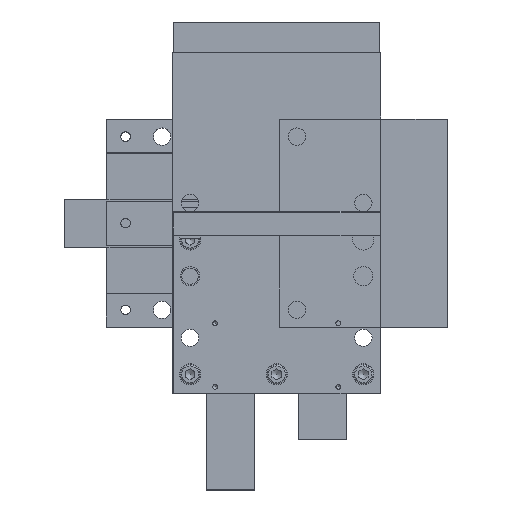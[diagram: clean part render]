
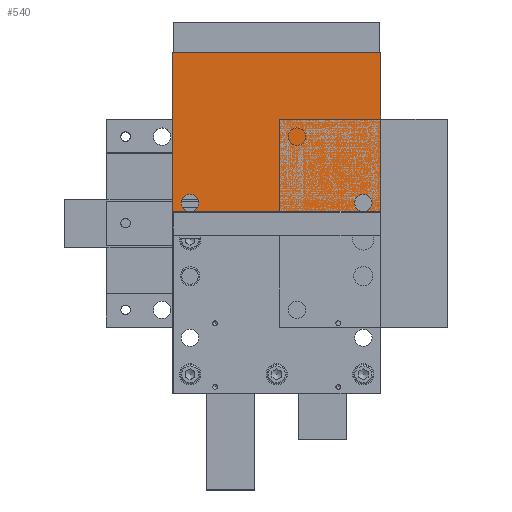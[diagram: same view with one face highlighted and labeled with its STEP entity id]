
A CAD part, top view. The second image highlights one B-rep face of the part: STEP entity #540.
In plain terms, the highlighted planar face has unit normal (0, 0, 1).
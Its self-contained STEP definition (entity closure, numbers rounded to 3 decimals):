
#540 = ADVANCED_FACE( '', ( #857, #858, #859 ), #860, .F. );
#857 = FACE_BOUND( '', #1560, .T. );
#858 = FACE_BOUND( '', #1561, .T. );
#859 = FACE_OUTER_BOUND( '', #1562, .T. );
#860 = PLANE( '', #1563 );
#1560 = EDGE_LOOP( '', ( #2439 ) );
#1561 = EDGE_LOOP( '', ( #2440 ) );
#1562 = EDGE_LOOP( '', ( #2441, #2442, #2443, #2444 ) );
#1563 = AXIS2_PLACEMENT_3D( '', #2445, #2446, #2447 );
#2439 = ORIENTED_EDGE( '', *, *, #3667, .F. );
#2440 = ORIENTED_EDGE( '', *, *, #3668, .F. );
#2441 = ORIENTED_EDGE( '', *, *, #3659, .T. );
#2442 = ORIENTED_EDGE( '', *, *, #3666, .F. );
#2443 = ORIENTED_EDGE( '', *, *, #3664, .F. );
#2444 = ORIENTED_EDGE( '', *, *, #3669, .T. );
#2445 = CARTESIAN_POINT( '', ( 88.5, -54., 25. ) );
#2446 = DIRECTION( '', ( 0., 0., -1. ) );
#2447 = DIRECTION( '', ( -1., 0., 0. ) );
#3659 = EDGE_CURVE( '', #4132, #4130, #4133, .T. );
#3664 = EDGE_CURVE( '', #4139, #4141, #4142, .T. );
#3666 = EDGE_CURVE( '', #4141, #4130, #4144, .T. );
#3667 = EDGE_CURVE( '', #4145, #4145, #4146, .T. );
#3668 = EDGE_CURVE( '', #4147, #4147, #4148, .T. );
#3669 = EDGE_CURVE( '', #4139, #4132, #4149, .T. );
#4130 = VERTEX_POINT( '', #5076 );
#4132 = VERTEX_POINT( '', #5079 );
#4133 = LINE( '', #5080, #5081 );
#4139 = VERTEX_POINT( '', #5088 );
#4141 = VERTEX_POINT( '', #5091 );
#4142 = LINE( '', #5092, #5093 );
#4144 = LINE( '', #5096, #5097 );
#4145 = VERTEX_POINT( '', #5098 );
#4146 = CIRCLE( '', #5099, 4.5 );
#4147 = VERTEX_POINT( '', #5100 );
#4148 = CIRCLE( '', #5101, 4.5 );
#4149 = LINE( '', #5102, #5103 );
#5076 = CARTESIAN_POINT( '', ( 1.5, 54., 25. ) );
#5079 = CARTESIAN_POINT( '', ( 88.5, 54., 25. ) );
#5080 = CARTESIAN_POINT( '', ( 88.5, 54., 25. ) );
#5081 = VECTOR( '', #6136, 1000. );
#5088 = CARTESIAN_POINT( '', ( 88.5, -54., 25. ) );
#5091 = CARTESIAN_POINT( '', ( 1.5, -54., 25. ) );
#5092 = CARTESIAN_POINT( '', ( 88.5, -54., 25. ) );
#5093 = VECTOR( '', #6145, 1000. );
#5096 = CARTESIAN_POINT( '', ( 1.5, -54., 25. ) );
#5097 = VECTOR( '', #6147, 1000. );
#5098 = CARTESIAN_POINT( '', ( 15., 45., 25. ) );
#5099 = AXIS2_PLACEMENT_3D( '', #6148, #6149, #6150 );
#5100 = CARTESIAN_POINT( '', ( 15., -45., 25. ) );
#5101 = AXIS2_PLACEMENT_3D( '', #6151, #6152, #6153 );
#5102 = CARTESIAN_POINT( '', ( 88.5, -54., 25. ) );
#5103 = VECTOR( '', #6154, 1000. );
#6136 = DIRECTION( '', ( -1., 0., 0. ) );
#6145 = DIRECTION( '', ( -1., 0., 0. ) );
#6147 = DIRECTION( '', ( 0., 1., 0. ) );
#6148 = CARTESIAN_POINT( '', ( 10.5, 45., 25. ) );
#6149 = DIRECTION( '', ( 0., 0., 1. ) );
#6150 = DIRECTION( '', ( 1., 0., 0. ) );
#6151 = CARTESIAN_POINT( '', ( 10.5, -45., 25. ) );
#6152 = DIRECTION( '', ( 0., 0., 1. ) );
#6153 = DIRECTION( '', ( 1., 0., 0. ) );
#6154 = DIRECTION( '', ( 0., 1., 0. ) );
